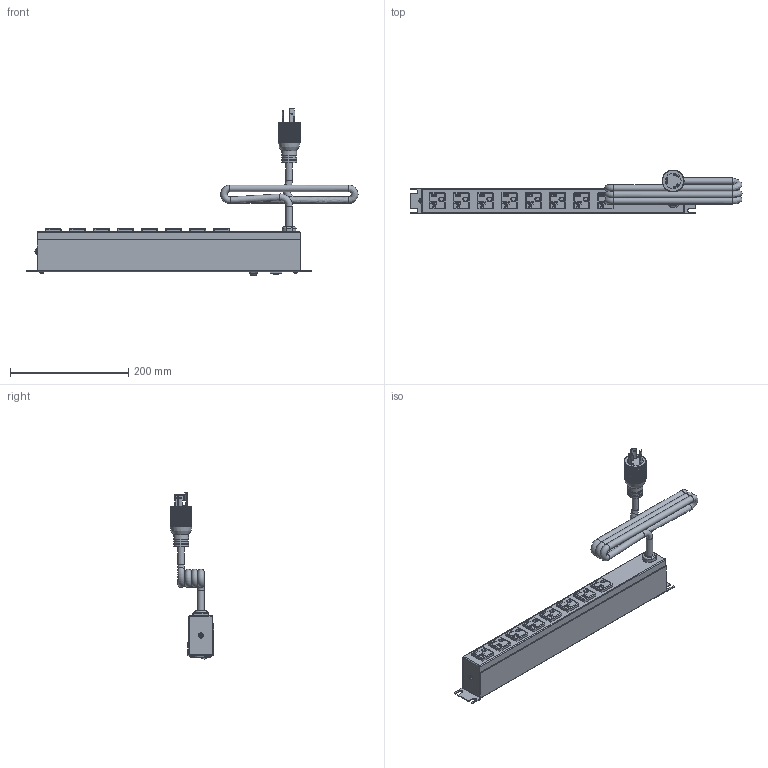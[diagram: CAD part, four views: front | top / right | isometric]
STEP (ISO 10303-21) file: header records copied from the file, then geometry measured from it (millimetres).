
FILE_DESCRIPTION((''),'2;1');
FILE_NAME('E:\Dutton\Manufacturing\drawings\Updated 2009\POWER BARS\1589 RR series\STEP''s\1589H8C1BKRR.stp','2010-01-12T10:16:55',('tfoster'),(''),'Autodesk Inventor 2010','Autodesk Inventor 2010','');
FILE_SCHEMA(('AUTOMOTIVE_DESIGN { 1 0 10303 214 1 1 1 1 }'));
Products named in the file (12): 1589H8C1BKRR; 1589H6 & H8 RR Front Panel; 1589H8 RR Back Plate; #6x0.5 type A; Reset Switch; Power Switch Assembly; Power Switch; Power Switch pt; toothwasher; round head 1-way 8-32 x 0.5 screw; 20 amp Twist Cored; 20 Amp Receptacle
Assembly tree (21 placements, depth 3):
  1589H8C1BKRR
    1589H6 & H8 RR Front Panel
    1589H8 RR Back Plate
    #6x0.5 type A  x4
    Reset Switch
    Power Switch Assembly
      Power Switch
      Power Switch pt
    toothwasher
    round head 1-way 8-32 x 0.5 screw
    20 amp Twist Cored
    20 Amp Receptacle  x8
Bounding box: 560.88 x 73.73 x 282.68 mm (x, y, z)
Volume: 458028.6 mm3; surface area: 324139.8 mm2
Topology: 20 solids, 20 shells, 1316 faces, 3760 edges, 2482 vertices
Faces by surface type: plane 895, cylinder 230, bspline 99, cone 39, sphere 37, torus 16
Full cylindrical faces by diameter (mm): 1 x2, 1.803 x3, 1.905 x2, 2.794 x3, 2.997 x4, 4.3 x1, 4.801 x1, 5.563 x4, 7.849 x1, 11 x4, 12.5 x1, 22.606 x2, 25.146 x3, 26.67 x1
Entity records: 29613 total; most frequent: CARTESIAN_POINT 8922, ORIENTED_EDGE 4424, DIRECTION 3910, EDGE_CURVE 2212, VERTEX_POINT 1499, VECTOR 1424, LINE 1424, AXIS2_PLACEMENT_3D 1243
